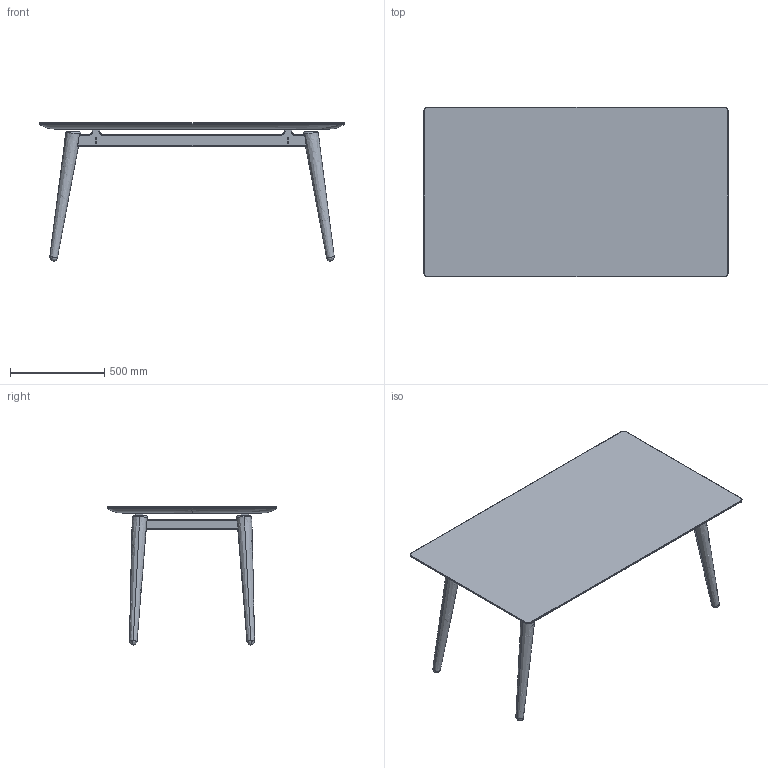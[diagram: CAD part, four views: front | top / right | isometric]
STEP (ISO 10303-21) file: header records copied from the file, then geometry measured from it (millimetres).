
FILE_DESCRIPTION(/* description */ (''),/* implementation_level */ '2;1');
FILE_NAME(/* name */ 'Evolve Mesa - Sobre Madera',/* time_stamp */ '2019-09-27T12:49:12+02:00',/* author */ (''),/* organization */ (''),/* preprocessor_version */ 'ST-DEVELOPER v16.5',/* originating_system */ '',/* authorisation */ '');
FILE_SCHEMA (('AUTOMOTIVE_DESIGN'));
Length unit declared in the file: millimetre
Products named in the file (1): Document
Bounding box: 1615 x 900 x 732.63 mm (x, y, z)
Volume: 36604494.9 mm3; surface area: 4323496.9 mm2
Topology: 17 solids, 17 shells, 327 faces, 746 edges, 462 vertices
Faces by surface type: bspline 248, plane 79
Entity records: 18800 total; most frequent: CARTESIAN_POINT 14443, ORIENTED_EDGE 1476, EDGE_CURVE 738, VERTEX_POINT 462, EDGE_LOOP 360, ADVANCED_FACE 327, FACE_OUTER_BOUND 327, B_SPLINE_CURVE_WITH_KNOTS 322
